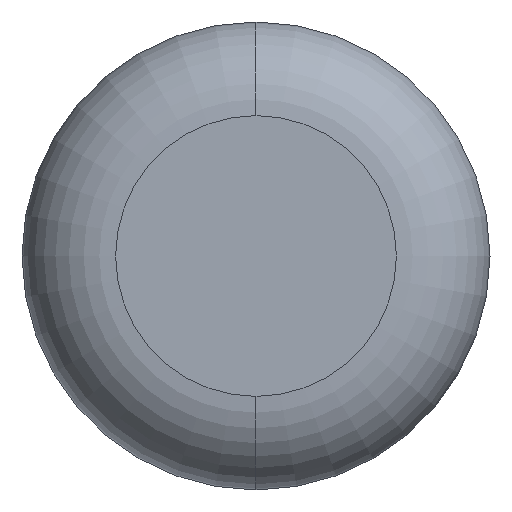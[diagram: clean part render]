
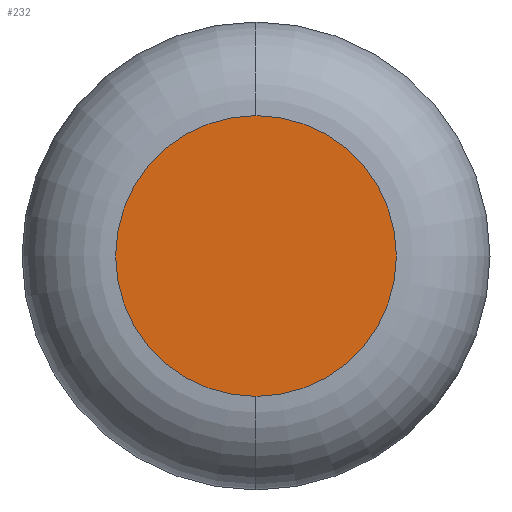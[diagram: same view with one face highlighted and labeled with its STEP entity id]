
A CAD part, left-side view. The second image highlights one B-rep face of the part: STEP entity #232.
In plain terms, the highlighted planar face has unit normal (-1, 0, 0).
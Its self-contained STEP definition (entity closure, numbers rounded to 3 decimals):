
#14 = CARTESIAN_POINT ( 'NONE',  ( 0., 0., 3. ) ) ;
#28 = CARTESIAN_POINT ( 'NONE',  ( 0., 0., 0. ) ) ;
#41 = DIRECTION ( 'NONE',  ( 0., 0., -1. ) ) ;
#53 = CIRCLE ( 'NONE', #112, 3. ) ;
#77 = DIRECTION ( 'NONE',  ( 1., 0., 0. ) ) ;
#79 = CARTESIAN_POINT ( 'NONE',  ( 0., 0., 0. ) ) ;
#83 = EDGE_LOOP ( 'NONE', ( #90, #118 ) ) ;
#84 = DIRECTION ( 'NONE',  ( -1., 0., 0. ) ) ;
#88 = VERTEX_POINT ( 'NONE', #14 ) ;
#90 = ORIENTED_EDGE ( 'NONE', *, *, #147, .T. ) ;
#94 = DIRECTION ( 'NONE',  ( 0., 0., -1. ) ) ;
#112 = AXIS2_PLACEMENT_3D ( 'NONE', #145, #84, #41 ) ;
#118 = ORIENTED_EDGE ( 'NONE', *, *, #211, .T. ) ;
#128 = PLANE ( 'NONE',  #159 ) ;
#145 = CARTESIAN_POINT ( 'NONE',  ( 0., 0., 0. ) ) ;
#147 = EDGE_CURVE ( 'NONE', #168, #88, #53, .T. ) ;
#155 = DIRECTION ( 'NONE',  ( 0., 0., -1. ) ) ;
#159 = AXIS2_PLACEMENT_3D ( 'NONE', #79, #77, #94 ) ;
#168 = VERTEX_POINT ( 'NONE', #212 ) ;
#207 = CIRCLE ( 'NONE', #226, 3. ) ;
#211 = EDGE_CURVE ( 'NONE', #88, #168, #207, .T. ) ;
#212 = CARTESIAN_POINT ( 'NONE',  ( 0., 0., -3. ) ) ;
#226 = AXIS2_PLACEMENT_3D ( 'NONE', #28, #237, #155 ) ;
#227 = FACE_OUTER_BOUND ( 'NONE', #83, .T. ) ;
#232 = ADVANCED_FACE ( 'NONE', ( #227 ), #128, .F. ) ;
#237 = DIRECTION ( 'NONE',  ( -1., 0., 0. ) ) ;
